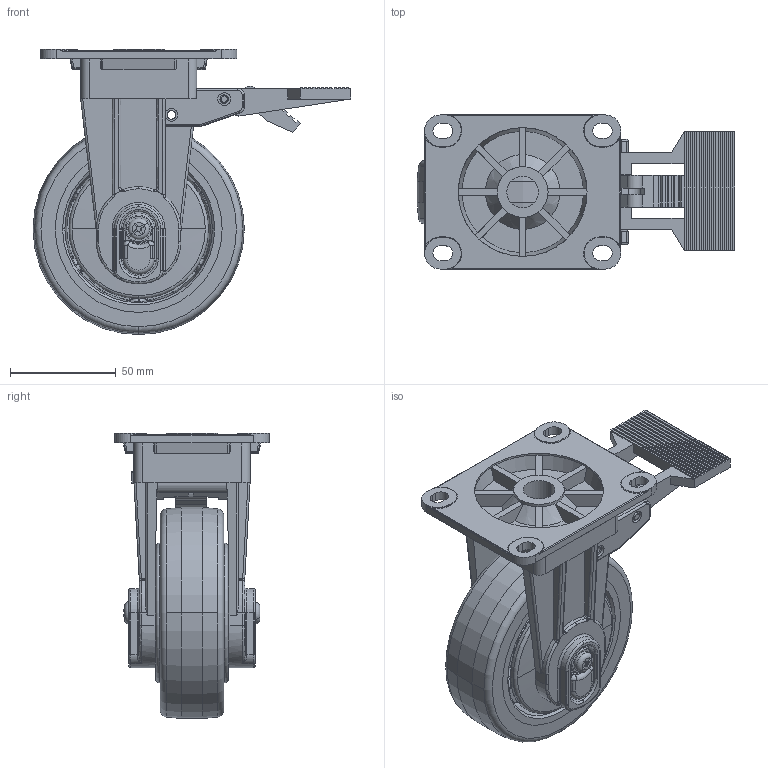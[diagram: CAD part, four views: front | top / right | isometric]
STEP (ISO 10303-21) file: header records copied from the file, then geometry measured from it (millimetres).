
FILE_DESCRIPTION((''),'2;1');
FILE_NAME('GDC-100 RF.stp','2010-09-15T14:09:37',(''),(''),'Mechanical Desktop 2009','Mechanical Desktop 2009',', , ');
FILE_SCHEMA(('CONFIG_CONTROL_DESIGN'));
Length unit declared in the file: millimetre
Products named in the file (27): GDC-100 RF; DRAWING5; C-100 RF; FRAME2; CAP; SHAFT; M06-12L+SW; S100WHEELCORE; S100WHEELURET; BEARING 608_IR15.4A; ABSR; ABSR1; C100 COVER; C-100 RFAA; BEARING 608_IR15.4; 睡ヶ1; S10130A; S10130; S10161; S10161A; S10150; S10150A; S10160; S10160A; DRAWING5A; C-100 RFA; BEARING 608_IR15.4AA
Assembly tree (31 placements, depth 5):
  GDC-100 RF
    DRAWING5
      C-100 RF
        FRAME2
        CAP  x2
        SHAFT
        M06-12L+SW
        S100WHEELCORE
        S100WHEELURET
        BEARING 608_IR15.4A  x2
          ABSR
          ABSR1
        C100 COVER  x2
      C-100 RFAA
        BEARING 608_IR15.4  x2
    睡ヶ1
    S10130A
      S10130
    S10161
      S10161A
    S10150
      S10150A
    S10160
      S10160A
    DRAWING5A
      C-100 RFA
        BEARING 608_IR15.4AA  x2
Bounding box: 150.5 x 73.01 x 135 mm (x, y, z)
Volume: 306444.1 mm3; surface area: 133025.9 mm2
Topology: 17 solids, 17 shells, 1341 faces, 3414 edges, 2101 vertices
Faces by surface type: cylinder 386, plane 359, bspline 337, torus 146, cone 109, sphere 4
Entity records: 54539 total; most frequent: CARTESIAN_POINT 25535, ORIENTED_EDGE 6086, DIRECTION 5858, EDGE_CURVE 3043, AXIS2_PLACEMENT_3D 2323, VERTEX_POINT 1887, CIRCLE 1336, EDGE_LOOP 1304
